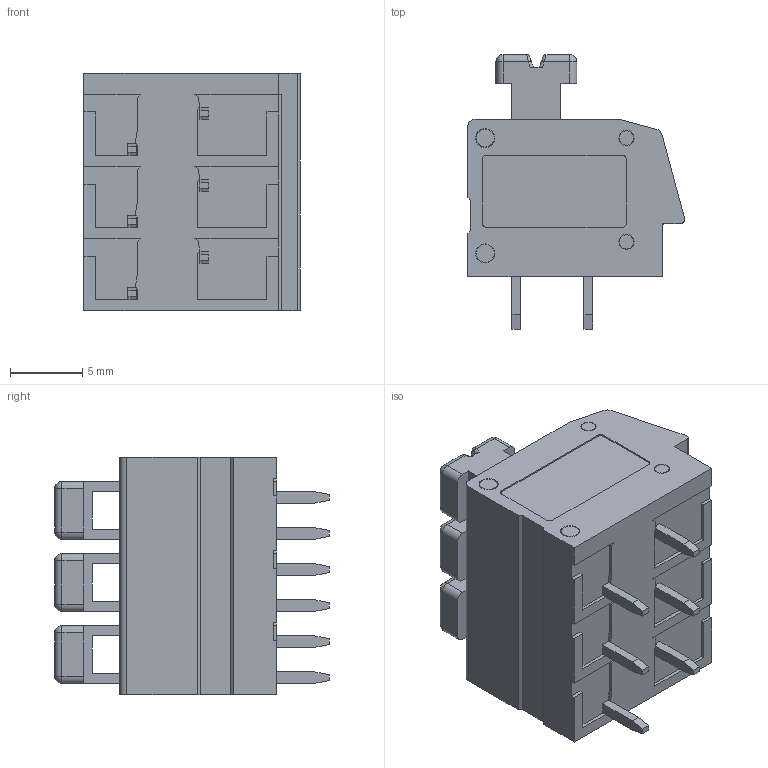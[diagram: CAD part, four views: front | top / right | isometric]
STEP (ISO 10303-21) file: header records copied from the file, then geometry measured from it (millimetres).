
FILE_DESCRIPTION((''),'2;1');
FILE_NAME('H60300801000G_SW0001','2019-05-15T',('zhenbing.lai'),(''),'CREO PARAMETRIC BY PTC INC, 2016260','CREO PARAMETRIC BY PTC INC, 2016260','');
FILE_SCHEMA(('CONFIG_CONTROL_DESIGN'));
Length unit declared in the file: millimetre
Products named in the file (1): H60300801000G_SW0001
Bounding box: 15 x 19.05 x 16.5 mm (x, y, z)
Volume: 2389.3 mm3; surface area: 1830.7 mm2
Topology: 1 solids, 1 shells, 425 faces, 1139 edges, 725 vertices
Faces by surface type: plane 281, cylinder 88, cone 24, sphere 12, bspline 12, torus 8
Entity records: 13761 total; most frequent: CARTESIAN_POINT 3126, ORIENTED_EDGE 2254, DIRECTION 2122, EDGE_CURVE 1127, VECTOR 862, LINE 862, VERTEX_POINT 725, AXIS2_PLACEMENT_3D 630
